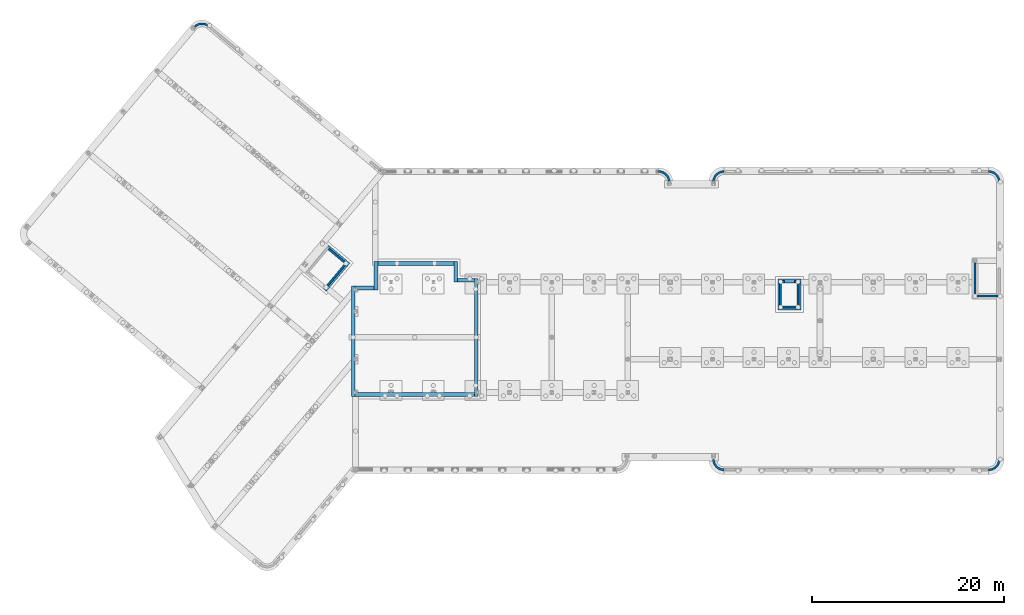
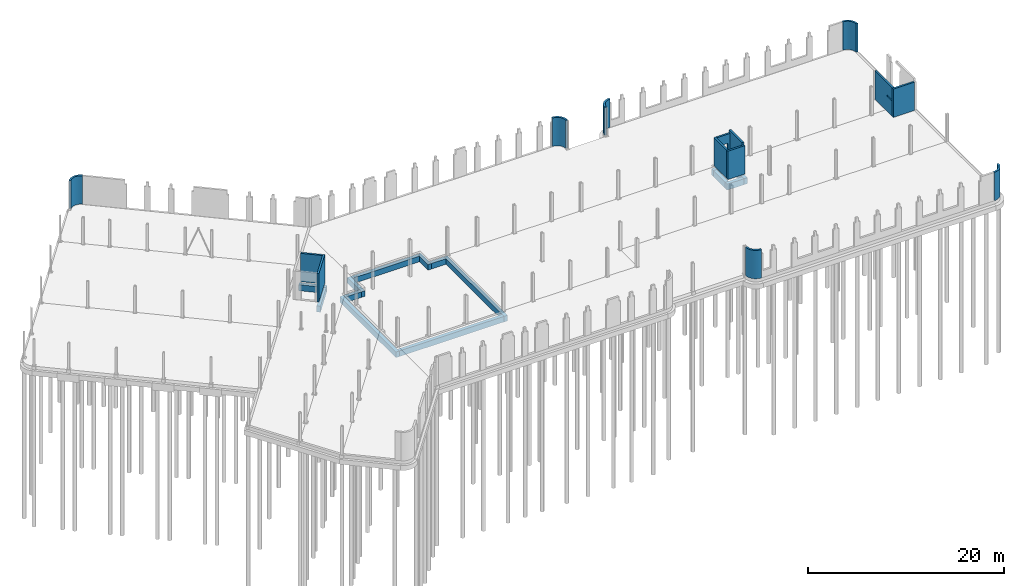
# One storey, part 22 of 26: 28 walls, 2 openings.
"""IFC2X3 building model written with IfcOpenShell, lengths in millimetres."""

from ifc_helpers import new_model, entity, si_unit, converted_unit, derived_unit, direction, frame, frame_2d, origin, place, context, subcontext, project, spatial, polyline, circle_curve, parameter, trimmed, segment, composite_curve, rectangle, outline, extrude, clip, bounded_halfspace, material, layer, layer_set, layer_usage, type_object, element, save


model = new_model("IFC2X3")

# Units and contexts
model_context = context("Model", 3, precision=0.01, world=origin(), true_north=direction((6.123031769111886e-17, 1.0)))
body_context = subcontext(model_context, "Body", "Model", "MODEL_VIEW")
ifc_project = project(units=[si_unit("LENGTHUNIT", "METRE", prefix="MILLI"), si_unit("AREAUNIT", "SQUARE_METRE"), si_unit("VOLUMEUNIT", "CUBIC_METRE"), derived_unit("MASSDENSITYUNIT", [(si_unit("MASSUNIT", "GRAM", prefix="KILO"), 1), (si_unit("LENGTHUNIT", "METRE"), -3)]), si_unit("MASSUNIT", "GRAM", prefix="KILO"), converted_unit("PLANEANGLEUNIT", "DEGREE", entity("IfcPlaneAngleMeasure", 0.017453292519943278), si_unit("PLANEANGLEUNIT", "RADIAN"), dimensions=[0, 0, 0, 0, 0, 0, 0])], contexts=[model_context])

# Site, building, storey
site_placement = place(None, origin())
site = spatial("IfcSite", under=ifc_project, at=site_placement, Name="Default", CompositionType="ELEMENT")
building_placement = place(site_placement, origin())
building = spatial("IfcBuilding", under=site, at=building_placement, Name="AT constructie", CompositionType="ELEMENT")
storey_placement = place(building_placement, origin())
storey = spatial("IfcBuildingStorey", under=building, at=storey_placement, Name="00 begane grond", CompositionType="ELEMENT", Elevation=-1.0828671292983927e-12)

# Walls
ifc_material_1 = material(Name="f1_kalkzandsteen_CS36")
ifc_layer_1 = layer(ifc_material_1, 214.0)
ifc_layer_set_1 = layer_set([ifc_layer_1], Name="Basic Wall:NLRS_22_WA_kalkzandsteen 214_CS36 gen_AT")
ifc_layer_usage_1 = layer_usage(ifc_layer_set_1, "AXIS2", "NEGATIVE", 107.0)
wall_type_1 = type_object("IfcWallType", Name="NLRS_22_WA_kalkzandsteen 214_CS36 gen_AT", PredefinedType="STANDARD", material=ifc_layer_set_1)
wall_1_placement = place(storey_placement, frame((108039.87463111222, 41671.043508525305, -50.0)))
element("IfcWallStandardCase", 1, at=wall_1_placement, inside=storey, type_object=wall_type_1, material=ifc_layer_usage_1, Name="Basic Wall:NLRS_22_WA_kalkzandsteen 214_CS36 gen_AT", ObjectType="Basic Wall:NLRS_22_WA_kalkzandsteen 214_CS36 gen_AT", context=body_context, shape_type="SweptSolid", body=[
    extrude(outline(composite_curve([segment(trimmed(circle_curve(frame_2d((-1093.0, 0.0), x_axis=(1.0, 0.0)), 986.0000000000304), [parameter(1.2213329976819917e-12)], [parameter(90.00000000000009)], True, "PARAMETER"), False, "CONTINUOUS"), segment(polyline([(-107.0, 0.0), (107.0, 0.0)]), True, "CONTINUOUS"), segment(trimmed(circle_curve(frame_2d((-1093.0, 0.0), x_axis=(1.0, 0.0)), 1200.0000000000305), [parameter(1.2408743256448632e-12)], [parameter(90.00000000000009)], True, "PARAMETER"), True, "CONTINUOUS"), segment(polyline([(-1093.0, 1200.0), (-1093.0, 986.0)]), True, "CONTINUOUS")], self_intersect=False)), origin(), (0.0, 0.0, 1.0), 3544.000000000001),
])
ifc_layer_usage_2 = layer_usage(ifc_layer_set_1, "AXIS2", "NEGATIVE", 107.0)
wall_2_placement = place(storey_placement, frame((78353.87463111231, 41671.0435085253, -50.0), z_axis=(0.0, 0.0, 1.0), x_axis=(-1.0, 0.0, 0.0)))
element("IfcWallStandardCase", 2, at=wall_2_placement, inside=storey, type_object=wall_type_1, material=ifc_layer_usage_2, Name="Basic Wall:NLRS_22_WA_kalkzandsteen 214_CS36 gen_AT", ObjectType="Basic Wall:NLRS_22_WA_kalkzandsteen 214_CS36 gen_AT", context=body_context, shape_type="SweptSolid", body=[
    extrude(outline(composite_curve([segment(trimmed(circle_curve(frame_2d((-1093.0, 0.0), x_axis=(1.0, 0.0)), 1200.0000000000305), [parameter(269.9999999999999)], [parameter(359.999999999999)], True, "PARAMETER"), True, "CONTINUOUS"), segment(polyline([(107.0, 0.0), (-107.0, 0.0)]), True, "CONTINUOUS"), segment(trimmed(circle_curve(frame_2d((-1093.0, 0.0), x_axis=(1.0, 0.0)), 986.0000000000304), [parameter(269.9999999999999)], [parameter(359.999999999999)], True, "PARAMETER"), False, "CONTINUOUS"), segment(polyline([(-1093.0, -986.0), (-1093.0, -1200.0)]), True, "CONTINUOUS")], self_intersect=False)), origin(), (0.0, 0.0, 1.0), 3544.000000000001),
])
ifc_layer_usage_3 = layer_usage(ifc_layer_set_1, "AXIS2", "NEGATIVE", 107.0)
wall_3_placement = place(storey_placement, frame((73739.87463111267, 41671.043508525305, -50.0)))
element("IfcWallStandardCase", 3, at=wall_3_placement, inside=storey, type_object=wall_type_1, material=ifc_layer_usage_3, Name="Basic Wall:NLRS_22_WA_kalkzandsteen 214_CS36 gen_AT", ObjectType="Basic Wall:NLRS_22_WA_kalkzandsteen 214_CS36 gen_AT", context=body_context, shape_type="SweptSolid", body=[
    extrude(outline(composite_curve([segment(trimmed(circle_curve(frame_2d((-1093.0, 0.0), x_axis=(1.0, 0.0)), 986.0000000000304), [parameter(1.2213329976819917e-12)], [parameter(90.00000000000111)], True, "PARAMETER"), False, "CONTINUOUS"), segment(polyline([(-107.0, 0.0), (107.0, 0.0)]), True, "CONTINUOUS"), segment(trimmed(circle_curve(frame_2d((-1093.0, 0.0), x_axis=(1.0, 0.0)), 1200.0000000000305), [parameter(1.2408743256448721e-12)], [parameter(90.0000000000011)], True, "PARAMETER"), True, "CONTINUOUS"), segment(polyline([(-1093.0, 1200.0), (-1093.0, 986.0)]), True, "CONTINUOUS")], self_intersect=False)), origin(), (0.0, 0.0, 1.0), 3544.000000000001),
])
ifc_layer_usage_4 = layer_usage(ifc_layer_set_1, "AXIS2", "NEGATIVE", 107.0)
wall_4_placement = place(storey_placement, frame((108039.87463111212, 12871.04350852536, -50.0)))
element("IfcWallStandardCase", 4, at=wall_4_placement, inside=storey, type_object=wall_type_1, material=ifc_layer_usage_4, Name="Basic Wall:NLRS_22_WA_kalkzandsteen 214_CS36 gen_AT", ObjectType="Basic Wall:NLRS_22_WA_kalkzandsteen 214_CS36 gen_AT", context=body_context, shape_type="SweptSolid", body=[
    extrude(outline(composite_curve([segment(trimmed(circle_curve(frame_2d((-1093.0, 0.0), x_axis=(1.0, 0.0)), 1200.0000000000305), [parameter(269.99999999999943)], [parameter(359.99999999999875)], True, "PARAMETER"), True, "CONTINUOUS"), segment(polyline([(107.0, 0.0), (-107.0, 0.0)]), True, "CONTINUOUS"), segment(trimmed(circle_curve(frame_2d((-1093.0, 0.0), x_axis=(1.0, 0.0)), 986.0000000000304), [parameter(269.99999999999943)], [parameter(359.99999999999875)], True, "PARAMETER"), False, "CONTINUOUS"), segment(polyline([(-1093.0, -986.0), (-1093.0, -1200.0)]), True, "CONTINUOUS")], self_intersect=False)), origin(), (0.0, 0.0, 1.0), 3544.000000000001),
])
ifc_layer_usage_5 = layer_usage(ifc_layer_set_1, "AXIS2", "NEGATIVE", 107.0)
wall_5_placement = place(storey_placement, frame((78353.87463111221, 12871.043508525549, -50.0), z_axis=(0.0, 0.0, 1.0), x_axis=(-1.0, 0.0, 0.0)))
element("IfcWallStandardCase", 5, at=wall_5_placement, inside=storey, type_object=wall_type_1, material=ifc_layer_usage_5, Name="Basic Wall:NLRS_22_WA_kalkzandsteen 214_CS36 gen_AT", ObjectType="Basic Wall:NLRS_22_WA_kalkzandsteen 214_CS36 gen_AT", context=body_context, shape_type="SweptSolid", body=[
    extrude(outline(composite_curve([segment(trimmed(circle_curve(frame_2d((-1093.0, 0.0), x_axis=(1.0, 0.0)), 986.0000000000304), [parameter(1.2213329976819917e-12)], [parameter(90.00000000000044)], True, "PARAMETER"), False, "CONTINUOUS"), segment(polyline([(-107.0, 0.0), (107.0, 0.0)]), True, "CONTINUOUS"), segment(trimmed(circle_curve(frame_2d((-1093.0, 0.0), x_axis=(1.0, 0.0)), 1200.0000000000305), [parameter(1.2053977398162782e-12)], [parameter(90.00000000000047)], True, "PARAMETER"), True, "CONTINUOUS"), segment(polyline([(-1093.0, 1200.0), (-1093.0, 986.0)]), True, "CONTINUOUS")], self_intersect=False)), origin(), (0.0, 0.0, 1.0), 3544.000000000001),
])
ifc_layer_usage_6 = layer_usage(ifc_layer_set_1, "AXIS2", "POSITIVE", -107.0)
wall_6_placement = place(storey_placement, frame((24374.4188912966, 57728.6650726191, -50.0), z_axis=(0.0, 0.0, 1.0), x_axis=(-1.0, 0.0, 0.0)))
element("IfcWallStandardCase", 6, at=wall_6_placement, inside=storey, type_object=wall_type_1, material=ifc_layer_usage_6, Name="Basic Wall:NLRS_22_WA_kalkzandsteen 214_CS36 gen_AT", ObjectType="Basic Wall:NLRS_22_WA_kalkzandsteen 214_CS36 gen_AT", context=body_context, shape_type="SweptSolid", body=[
    extrude(outline(composite_curve([segment(trimmed(circle_curve(frame_2d((-836.8581882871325, 703.0770745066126), x_axis=(1.0, 0.0)), 1200.0), [parameter(229.9650767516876)], [parameter(319.9650767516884)], True, "PARAMETER"), True, "CONTINUOUS"), segment(polyline([(81.9248180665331, -68.82822229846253), (-81.9248180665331, 68.82822229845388)]), True, "CONTINUOUS"), segment(trimmed(circle_curve(frame_2d((-836.8581882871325, 703.0770745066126), x_axis=(1.0, 0.0)), 986.0), [parameter(229.9650767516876)], [parameter(319.9650767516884)], True, "PARAMETER"), False, "CONTINUOUS"), segment(polyline([(-1471.1070404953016, -51.856295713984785), (-1608.7634850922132, -215.70593184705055)]), True, "CONTINUOUS")], self_intersect=False)), origin(), (0.0, 0.0, 1.0), 3544.000000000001),
])
ifc_material_2 = material(Name="f1_kalkzandsteen_CS20")
ifc_layer_2 = layer(ifc_material_2, 214.0)
ifc_layer_set_2 = layer_set([ifc_layer_2], Name="Basic Wall:NLRS_22_WA_kalkzandsteen 214_CS20_gen_AT")
ifc_layer_usage_7 = layer_usage(ifc_layer_set_2, "AXIS2", "POSITIVE", -107.0)
wall_type_2 = type_object("IfcWallType", Name="NLRS_22_WA_kalkzandsteen 214_CS20_gen_AT", PredefinedType="STANDARD", material=ifc_layer_set_2)
wall_7_placement = place(storey_placement, frame((105418.87463489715, 29814.0435085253, -50.0)))
element("IfcWallStandardCase", 7, at=wall_7_placement, inside=storey, type_object=wall_type_2, material=ifc_layer_usage_7, Name="Basic Wall:NLRS_22_WA_kalkzandsteen 214_CS20_gen_AT", ObjectType="Basic Wall:NLRS_22_WA_kalkzandsteen 214_CS20_gen_AT", context=body_context, shape_type="SweptSolid", body=[
    extrude(rectangle(XDim=2513.9999962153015, YDim=214.00000000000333, at=frame_2d((1256.9999981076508, -3.481659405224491e-13), x_axis=(-1.0, 0.0))), origin(), (0.0, 0.0, 1.0), 3544.000000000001),
])

# Wall, opening
ifc_layer_usage_8 = layer_usage(ifc_layer_set_2, "AXIS2", "POSITIVE", -107.0)
wall_8_placement = place(storey_placement, frame((105525.87463489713, 33493.043508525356, -50.0), z_axis=(0.0, 0.0, 1.0), x_axis=(0.0, -1.0, 0.0)))
wall_8 = element("IfcWallStandardCase", 8, at=wall_8_placement, inside=storey, type_object=wall_type_2, material=ifc_layer_usage_8, Name="Basic Wall:NLRS_22_WA_kalkzandsteen 214_CS20_gen_AT", ObjectType="Basic Wall:NLRS_22_WA_kalkzandsteen 214_CS20_gen_AT", context=body_context, shape_type="SweptSolid", body=[
    extrude(rectangle(XDim=3572.00000000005, YDim=213.99999999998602, at=frame_2d((1786.000000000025, 3.268496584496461e-13), x_axis=(-1.0, 0.0))), origin(), (0.0, 0.0, 1.0), 3544.000000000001),
])
opening_1_placement = place(storey_placement, frame((105525.87463489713, 33493.043508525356, -50.0), z_axis=(0.0, 0.0, 1.0), x_axis=(0.0, -1.0, 0.0)))
element("IfcOpeningElement", 9, at=opening_1_placement, cuts=wall_8, Name="Basic Wall:NLRS_22_WA_kalkzandsteen 214_CS20_gen_AT:1", ObjectType="Opening", context=body_context, shape_type="SweptSolid", body=[
    extrude(rectangle(XDim=213.99999999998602, YDim=961.4579107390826, at=frame_2d((-1.7330137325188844e-11, 2.1600499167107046e-12), x_axis=(1.0, 0.0))), frame((3031.2710446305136, 0.0, 1874.0), z_axis=(0.0, 0.0, 1.0), x_axis=(0.0, 1.0, 0.0)), (0.0, 0.0, 1.0), 200.0000000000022),
])

# Walls
ifc_layer_usage_9 = layer_usage(ifc_layer_set_2, "AXIS2", "NEGATIVE", 107.0)
wall_9_placement = place(storey_placement, frame((40232.13828435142, 33292.991530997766, -50.0), z_axis=(0.0, 0.0, 1.0), x_axis=(-0.6427876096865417, -0.7660444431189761, 0.0)))
element("IfcWallStandardCase", 10, at=wall_9_placement, inside=storey, type_object=wall_type_2, material=ifc_layer_usage_9, Name="Basic Wall:NLRS_22_WA_kalkzandsteen 214_CS20_gen_AT", ObjectType="Basic Wall:NLRS_22_WA_kalkzandsteen 214_CS20_gen_AT", context=body_context, shape_type="SweptSolid", body=[
    extrude(rectangle(XDim=3438.0000000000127, YDim=214.00000000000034, at=frame_2d((1719.0000000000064, 6.963318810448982e-13), x_axis=(-1.0, 0.0))), origin(), (0.0, 0.0, 1.0), 3544.000000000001),
])
ifc_layer_usage_10 = layer_usage(ifc_layer_set_2, "AXIS2", "NEGATIVE", 107.0)
wall_10_placement = place(storey_placement, frame((38350.13281325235, 34732.50304771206, -50.0), z_axis=(0.0, 0.0, 1.0), x_axis=(0.7660444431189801, -0.6427876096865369, 0.0)))
element("IfcWallStandardCase", 11, at=wall_10_placement, inside=storey, type_object=wall_type_2, material=ifc_layer_usage_10, Name="Basic Wall:NLRS_22_WA_kalkzandsteen 214_CS20_gen_AT", ObjectType="Basic Wall:NLRS_22_WA_kalkzandsteen 214_CS20_gen_AT", context=body_context, shape_type="SweptSolid", body=[
    extrude(rectangle(XDim=2259.9999999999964, YDim=214.00000000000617, at=frame_2d((1129.9999999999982, 7.247535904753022e-13), x_axis=(-1.0, 0.0))), origin(), (0.0, 0.0, 1.0), 3544.000000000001),
])
ifc_layer_usage_11 = layer_usage(ifc_layer_set_2, "AXIS2", "POSITIVE", -107.0)
wall_11_placement = place(storey_placement, frame((85216.87463111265, 28678.04350852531, -50.0)))
element("IfcWallStandardCase", 12, at=wall_11_placement, inside=storey, type_object=wall_type_2, material=ifc_layer_usage_11, Name="Basic Wall:NLRS_22_WA_kalkzandsteen 214_CS20_gen_AT", ObjectType="Basic Wall:NLRS_22_WA_kalkzandsteen 214_CS20_gen_AT", context=body_context, shape_type="SweptSolid", body=[
    extrude(rectangle(XDim=2028.0000000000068, YDim=214.00000000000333, at=frame_2d((1014.0000000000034, 1.0516032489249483e-12), x_axis=(-1.0, 0.0))), origin(), (0.0, 0.0, 1.0), 3544.000000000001),
])
ifc_layer_usage_12 = layer_usage(ifc_layer_set_2, "AXIS2", "NEGATIVE", 107.0)
wall_12_placement = place(storey_placement, frame((85323.87463111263, 31421.0435085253, -50.0), z_axis=(0.0, 0.0, 1.0), x_axis=(0.0, -1.0, 0.0)))
element("IfcWallStandardCase", 13, at=wall_12_placement, inside=storey, type_object=wall_type_2, material=ifc_layer_usage_12, Name="Basic Wall:NLRS_22_WA_kalkzandsteen 214_CS20_gen_AT", ObjectType="Basic Wall:NLRS_22_WA_kalkzandsteen 214_CS20_gen_AT", context=body_context, shape_type="SweptSolid", body=[
    extrude(rectangle(XDim=2635.99999999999, YDim=213.99999999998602, at=frame_2d((1317.999999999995, -3.879563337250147e-12), x_axis=(-1.0, 0.0))), origin(), (0.0, 0.0, 1.0), 3544.000000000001),
])
ifc_layer_usage_13 = layer_usage(ifc_layer_set_2, "AXIS2", "NEGATIVE", 107.0)
wall_13_placement = place(storey_placement, frame((87137.87463111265, 31421.043508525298, -50.0), z_axis=(0.0, 0.0, 1.0), x_axis=(0.0, -1.0, 0.0)))
element("IfcWallStandardCase", 14, at=wall_13_placement, inside=storey, type_object=wall_type_2, material=ifc_layer_usage_13, Name="Basic Wall:NLRS_22_WA_kalkzandsteen 214_CS20_gen_AT", ObjectType="Basic Wall:NLRS_22_WA_kalkzandsteen 214_CS20_gen_AT", context=body_context, shape_type="Clipping", body=[
    clip(extrude(rectangle(XDim=2635.99999999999, YDim=213.99999999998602, at=frame_2d((1317.999999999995, -3.879563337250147e-12), x_axis=(-1.0, 0.0))), origin(), (0.0, 0.0, 1.0), 3864.000000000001), bounded_halfspace(frame((0.0, -107.0, 3864.0), z_axis=(0.0, 0.0, -1.0), x_axis=(0.0, 1.0, 0.0)), True, frame((0.0, -107.0, 3864.0)), polyline([(0.0, 0.0), (2636.0, 0.0), (2636.0, 214.0), (0.0, 214.0), (0.0, 0.0)]))),
])

# Wall, opening
ifc_layer_usage_14 = layer_usage(ifc_layer_set_2, "AXIS2", "NEGATIVE", 107.0)
wall_14_placement = place(storey_placement, frame((85430.87463111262, 31314.043508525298, -50.0)))
wall_14 = element("IfcWallStandardCase", 15, at=wall_14_placement, inside=storey, type_object=wall_type_2, material=ifc_layer_usage_14, Name="Basic Wall:NLRS_22_WA_kalkzandsteen 214_CS20_gen_AT", ObjectType="Basic Wall:NLRS_22_WA_kalkzandsteen 214_CS20_gen_AT", context=body_context, shape_type="SweptSolid", body=[
    extrude(rectangle(XDim=1600.0000000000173, YDim=214.00000000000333, at=frame_2d((800.0000000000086, 3.694822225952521e-13), x_axis=(-1.0, 0.0))), origin(), (0.0, 0.0, 1.0), 3544.000000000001),
])
opening_2_placement = place(wall_14_placement, frame((-85430.87463111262, -31314.043508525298, 50.0)))
element("IfcOpeningElement", 16, at=opening_2_placement, cuts=wall_14, Name="Basic Wall:NLRS_22_WA_kalkzandsteen 214_CS20_gen_AT", ObjectType="Opening", context=body_context, shape_type="SweptSolid", body=[
    extrude(rectangle(XDim=2400.0, YDim=1050.0000000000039, at=frame_2d((0.0, 0.0), x_axis=(0.0, 1.0))), frame((86230.8746311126, 29683.043508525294, 1150.0), z_axis=(0.0, 1.0, 0.0), x_axis=(1.0, 0.0, 0.0)), (0.0, 0.0, 1.0), 3048.0),
])

# Walls
ifc_material_3 = material(Name="f2_beton ihwg_gen")
ifc_layer_3 = layer(ifc_material_3, 400.0)
ifc_layer_set_3 = layer_set([ifc_layer_3], Name="Basic Wall:NLRS_21_WA_beton ihw 400_gen_AT")
ifc_layer_usage_15 = layer_usage(ifc_layer_set_3, "AXIS2", "NEGATIVE", 200.0)
wall_type_3 = type_object("IfcWallType", Name="NLRS_21_WA_beton ihw 400_gen_AT", PredefinedType="STANDARD", material=ifc_layer_set_3)
wall_15_placement = place(storey_placement, frame((38256.7031723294, 34932.30270285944, -1200.0), z_axis=(0.0, 0.0, 1.0), x_axis=(0.7660444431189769, -0.6427876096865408, 0.0)))
element("IfcWallStandardCase", 17, at=wall_15_placement, inside=storey, type_object=wall_type_3, material=ifc_layer_usage_15, Name="Basic Wall:NLRS_21_WA_beton ihw 400_gen_AT", ObjectType="Basic Wall:NLRS_21_WA_beton ihw 400_gen_AT", context=body_context, shape_type="SweptSolid", body=[
    extrude(rectangle(XDim=2859.9999999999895, YDim=399.9999999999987, at=frame_2d((1429.9999999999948, -1.1795009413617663e-12), x_axis=(-1.0, 0.0))), origin(), (0.0, 0.0, 1.0), 750.0),
])
ifc_layer_usage_16 = layer_usage(ifc_layer_set_3, "AXIS2", "NEGATIVE", 200.0)
wall_16_placement = place(storey_placement, frame((40165.82386908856, 33069.27877246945, -1200.0), z_axis=(0.0, 0.0, 1.0), x_axis=(-0.64278760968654, -0.7660444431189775, 0.0)))
element("IfcWallStandardCase", 18, at=wall_16_placement, inside=storey, type_object=wall_type_3, material=ifc_layer_usage_16, Name="Basic Wall:NLRS_21_WA_beton ihw 400_gen_AT", ObjectType="Basic Wall:NLRS_21_WA_beton ihw 400_gen_AT", context=body_context, shape_type="SweptSolid", body=[
    extrude(rectangle(XDim=3410.0000000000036, YDim=399.99999999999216, at=frame_2d((1705.0000000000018, 7.105427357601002e-14), x_axis=(-1.0, 0.0))), origin(), (0.0, 0.0, 1.0), 750.0),
])
ifc_layer_usage_17 = layer_usage(ifc_layer_set_3, "AXIS2", "NEGATIVE", 200.0)
wall_17_placement = place(storey_placement, frame((85030.87463111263, 31407.043508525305, -1200.0)))
element("IfcWallStandardCase", 19, at=wall_17_placement, inside=storey, type_object=wall_type_3, material=ifc_layer_usage_17, Name="Basic Wall:NLRS_21_WA_beton ihw 400_gen_AT", ObjectType="Basic Wall:NLRS_21_WA_beton ihw 400_gen_AT", context=body_context, shape_type="SweptSolid", body=[
    extrude(rectangle(XDim=2399.9999999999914, YDim=400.0000000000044, at=frame_2d((1199.9999999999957, 9.663381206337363e-13), x_axis=(-1.0, 0.0))), origin(), (0.0, 0.0, 1.0), 750.0),
])
ifc_layer_usage_18 = layer_usage(ifc_layer_set_3, "AXIS2", "NEGATIVE", 200.0)
wall_18_placement = place(storey_placement, frame((87230.87463111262, 31207.0435085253, -1200.0), z_axis=(0.0, 0.0, 1.0), x_axis=(0.0, -1.0, 0.0)))
element("IfcWallStandardCase", 20, at=wall_18_placement, inside=storey, type_object=wall_type_3, material=ifc_layer_usage_18, Name="Basic Wall:NLRS_21_WA_beton ihw 400_gen_AT", ObjectType="Basic Wall:NLRS_21_WA_beton ihw 400_gen_AT", context=body_context, shape_type="SweptSolid", body=[
    extrude(rectangle(XDim=2821.999999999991, YDim=400.0000000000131, at=frame_2d((1410.9999999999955, 2.2737367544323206e-12), x_axis=(-1.0, 0.0))), origin(), (0.0, 0.0, 1.0), 750.0),
])
ifc_layer_usage_19 = layer_usage(ifc_layer_set_3, "AXIS2", "NEGATIVE", 200.0)
wall_19_placement = place(storey_placement, frame((87030.87463111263, 28585.04350852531, -1200.0), z_axis=(0.0, 0.0, 1.0), x_axis=(-1.0, 0.0, 0.0)))
element("IfcWallStandardCase", 21, at=wall_19_placement, inside=storey, type_object=wall_type_3, material=ifc_layer_usage_19, Name="Basic Wall:NLRS_21_WA_beton ihw 400_gen_AT", ObjectType="Basic Wall:NLRS_21_WA_beton ihw 400_gen_AT", context=body_context, shape_type="SweptSolid", body=[
    extrude(rectangle(XDim=2000.000000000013, YDim=399.9999999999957, at=frame_2d((1000.0000000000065, -1.5063505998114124e-12), x_axis=(-1.0, 0.0))), origin(), (0.0, 0.0, 1.0), 750.0),
])
ifc_layer_usage_20 = layer_usage(ifc_layer_set_3, "AXIS2", "NEGATIVE", 200.0)
wall_20_placement = place(storey_placement, frame((85230.87463111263, 28785.043508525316, -1200.0), z_axis=(0.0, 0.0, 1.0), x_axis=(0.0, 1.0, 0.0)))
element("IfcWallStandardCase", 22, at=wall_20_placement, inside=storey, type_object=wall_type_3, material=ifc_layer_usage_20, Name="Basic Wall:NLRS_21_WA_beton ihw 400_gen_AT", ObjectType="Basic Wall:NLRS_21_WA_beton ihw 400_gen_AT", context=body_context, shape_type="SweptSolid", body=[
    extrude(rectangle(XDim=2421.999999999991, YDim=400.000000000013, at=frame_2d((1210.9999999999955, -4.163780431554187e-12), x_axis=(-1.0, 0.0))), origin(), (0.0, 0.0, 1.0), 750.0),
])
ifc_layer_usage_21 = layer_usage(ifc_layer_set_3, "AXIS2", "NEGATIVE", 200.0)
wall_21_placement = place(storey_placement, frame((53696.874631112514, 31671.043508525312, -1154.0), z_axis=(0.0, 0.0, 1.0), x_axis=(0.0, -1.0, 0.0)))
element("IfcWallStandardCase", 23, at=wall_21_placement, inside=storey, type_object=wall_type_3, material=ifc_layer_usage_21, Name="Basic Wall:NLRS_21_WA_beton ihw 400_gen_AT", ObjectType="Basic Wall:NLRS_21_WA_beton ihw 400_gen_AT", context=body_context, shape_type="SweptSolid", body=[
    extrude(rectangle(XDim=12275.00000000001, YDim=399.9999999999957, at=frame_2d((6137.500000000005, 5.400124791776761e-13), x_axis=(-1.0, 0.0))), origin(), (0.0, 0.0, 1.0), 704.0),
])
ifc_layer_usage_22 = layer_usage(ifc_layer_set_3, "AXIS2", "NEGATIVE", 200.0)
wall_22_placement = place(storey_placement, frame((53496.874631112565, 19596.043508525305, -1154.0), z_axis=(0.0, 0.0, 1.0), x_axis=(-1.0, 0.0, 0.0)))
element("IfcWallStandardCase", 24, at=wall_22_placement, inside=storey, type_object=wall_type_3, material=ifc_layer_usage_22, Name="Basic Wall:NLRS_21_WA_beton ihw 400_gen_AT", ObjectType="Basic Wall:NLRS_21_WA_beton ihw 400_gen_AT", context=body_context, shape_type="SweptSolid", body=[
    extrude(rectangle(XDim=12374.999999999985, YDim=400.00000000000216, at=frame_2d((6187.499999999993, -1.5916157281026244e-12), x_axis=(-1.0, 0.0))), origin(), (0.0, 0.0, 1.0), 704.0),
])
ifc_layer_usage_23 = layer_usage(ifc_layer_set_3, "AXIS2", "POSITIVE", -200.0)
wall_23_placement = place(storey_placement, frame((40921.874631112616, 30871.043508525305, -1154.0), z_axis=(0.0, 0.0, 1.0), x_axis=(0.0, -1.0, 0.0)))
element("IfcWallStandardCase", 25, at=wall_23_placement, inside=storey, type_object=wall_type_3, material=ifc_layer_usage_23, Name="Basic Wall:NLRS_21_WA_beton ihw 400_gen_AT", ObjectType="Basic Wall:NLRS_21_WA_beton ihw 400_gen_AT", context=body_context, shape_type="SweptSolid", body=[
    extrude(rectangle(XDim=11474.999999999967, YDim=399.9999999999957, at=frame_2d((5737.499999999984, 2.4300561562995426e-12), x_axis=(-1.0, 0.0))), origin(), (0.0, 0.0, 1.0), 704.0),
])
ifc_layer_usage_24 = layer_usage(ifc_layer_set_3, "AXIS2", "NEGATIVE", 200.0)
wall_24_placement = place(storey_placement, frame((51566.87463111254, 33421.04350852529, -1154.0), z_axis=(0.0, 0.0, 1.0), x_axis=(0.0, -1.0, 0.0)))
element("IfcWallStandardCase", 26, at=wall_24_placement, inside=storey, type_object=wall_type_3, material=ifc_layer_usage_24, Name="Basic Wall:NLRS_21_WA_beton ihw 400_gen_AT", ObjectType="Basic Wall:NLRS_21_WA_beton ihw 400_gen_AT", context=body_context, shape_type="SweptSolid", body=[
    extrude(rectangle(XDim=2149.9999999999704, YDim=399.9999999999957, at=frame_2d((1074.9999999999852, 6.252776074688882e-13), x_axis=(-1.0, 0.0))), origin(), (0.0, 0.0, 1.0), 704.0),
])
ifc_layer_usage_25 = layer_usage(ifc_layer_set_3, "AXIS2", "NEGATIVE", 200.0)
wall_25_placement = place(storey_placement, frame((43466.874631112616, 33221.04350852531, -1154.0)))
element("IfcWallStandardCase", 27, at=wall_25_placement, inside=storey, type_object=wall_type_3, material=ifc_layer_usage_25, Name="Basic Wall:NLRS_21_WA_beton ihw 400_gen_AT", ObjectType="Basic Wall:NLRS_21_WA_beton ihw 400_gen_AT", context=body_context, shape_type="SweptSolid", body=[
    extrude(rectangle(XDim=7899.999999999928, YDim=399.9999999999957, at=frame_2d((3949.999999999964, 2.4158453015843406e-13), x_axis=(-1.0, 0.0))), origin(), (0.0, 0.0, 1.0), 704.0),
])
ifc_layer_usage_26 = layer_usage(ifc_layer_set_3, "AXIS2", "POSITIVE", -200.0)
wall_26_placement = place(storey_placement, frame((43266.874631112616, 33421.04350852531, -1154.0), z_axis=(0.0, 0.0, 1.0), x_axis=(0.0, -1.0, 0.0)))
element("IfcWallStandardCase", 28, at=wall_26_placement, inside=storey, type_object=wall_type_3, material=ifc_layer_usage_26, Name="Basic Wall:NLRS_21_WA_beton ihw 400_gen_AT", ObjectType="Basic Wall:NLRS_21_WA_beton ihw 400_gen_AT", context=body_context, shape_type="SweptSolid", body=[
    extrude(rectangle(XDim=2950.0000000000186, YDim=399.9999999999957, at=frame_2d((1475.0000000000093, 7.531752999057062e-13), x_axis=(-1.0, 0.0))), origin(), (0.0, 0.0, 1.0), 704.0),
])
ifc_layer_usage_27 = layer_usage(ifc_layer_set_3, "AXIS2", "POSITIVE", -200.0)
wall_27_placement = place(storey_placement, frame((43066.8746311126, 30671.043508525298, -1154.0), z_axis=(0.0, 0.0, 1.0), x_axis=(-1.0, 0.0, 0.0)))
element("IfcWallStandardCase", 29, at=wall_27_placement, inside=storey, type_object=wall_type_3, material=ifc_layer_usage_27, Name="Basic Wall:NLRS_21_WA_beton ihw 400_gen_AT", ObjectType="Basic Wall:NLRS_21_WA_beton ihw 400_gen_AT", context=body_context, shape_type="SweptSolid", body=[
    extrude(rectangle(XDim=1944.9999999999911, YDim=400.0000000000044, at=frame_2d((972.4999999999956, -1.2505552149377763e-12), x_axis=(-1.0, 0.0))), origin(), (0.0, 0.0, 1.0), 704.0),
])
ifc_layer_usage_28 = layer_usage(ifc_layer_set_3, "AXIS2", "POSITIVE", -200.0)
wall_28_placement = place(storey_placement, frame((53496.87463111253, 31471.043508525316, -1154.0), z_axis=(0.0, 0.0, 1.0), x_axis=(-1.0, 0.0, 0.0)))
element("IfcWallStandardCase", 30, at=wall_28_placement, inside=storey, type_object=wall_type_3, material=ifc_layer_usage_28, Name="Basic Wall:NLRS_21_WA_beton ihw 400_gen_AT", ObjectType="Basic Wall:NLRS_21_WA_beton ihw 400_gen_AT", context=body_context, shape_type="SweptSolid", body=[
    extrude(rectangle(XDim=1729.999999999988, YDim=400.0000000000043, at=frame_2d((864.999999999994, 5.684341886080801e-13), x_axis=(-1.0, 0.0))), origin(), (0.0, 0.0, 1.0), 704.0),
])

save(model, "model.ifc")
